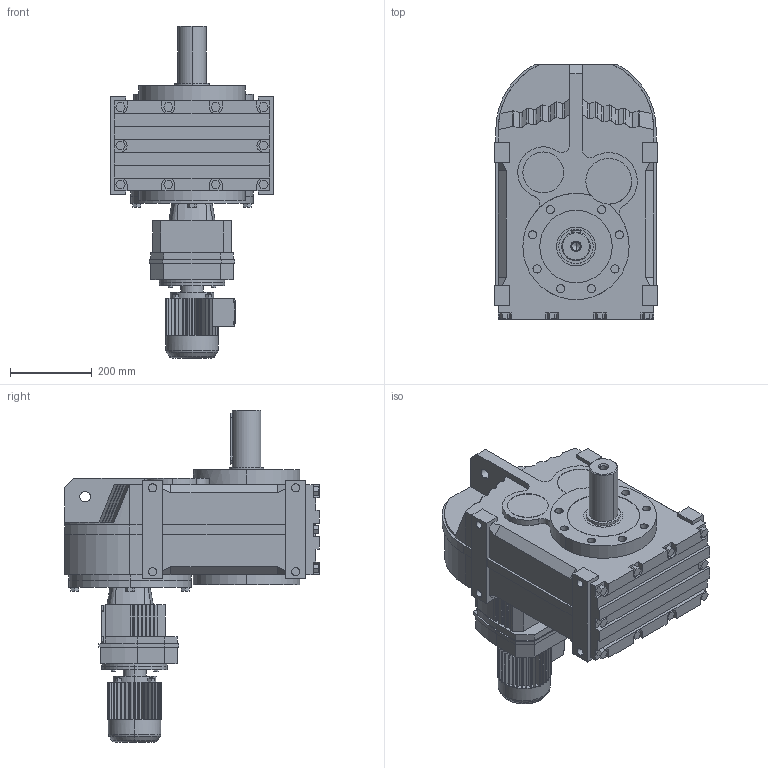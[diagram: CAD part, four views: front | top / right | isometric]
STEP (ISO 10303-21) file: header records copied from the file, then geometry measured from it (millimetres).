
FILE_DESCRIPTION(('Open CASCADE Model'),'2;1');
FILE_NAME('Open CASCADE Shape Model','2021-07-24T10:28:55',('Author'),( 'Open CASCADE'),'Open CASCADE STEP processor 6.3','Open CASCADE 6.3' ,'Unknown');
FILE_SCHEMA(('AUTOMOTIVE_DESIGN_CC2 { 1 2 10303 214 -1 1 5 4 }'));
Length unit declared in the file: millimetre
Products named in the file (5): 1_F97R57DR63; FAZ27‵157_97.step; 萇儂_160-DR63-185-240-132-105.step; R_97_57.step; す瑩妗陑粣F_97.step
Assembly tree (4 placements, depth 2):
  1_F97R57DR63
    FAZ27‵157_97.step
    萇儂_160-DR63-185-240-132-105.step
    R_97_57.step
    す瑩妗陑粣F_97.step
Bounding box: 400 x 623 x 812 mm (x, y, z)
Volume: 60998472.5 mm3; surface area: 1795564.3 mm2
Topology: 4 solids, 4 shells, 1017 faces, 2690 edges, 1758 vertices
Faces by surface type: plane 752, cylinder 229, bspline 16, cone 16, torus 4
Entity records: 68569 total; most frequent: CARTESIAN_POINT 16524, DIRECTION 9180, LINE 5481, VECTOR 5481, ORIENTED_EDGE 5376, PCURVE 5376, DEFINITIONAL_REPRESENTATION 5376, EDGE_CURVE 2688
